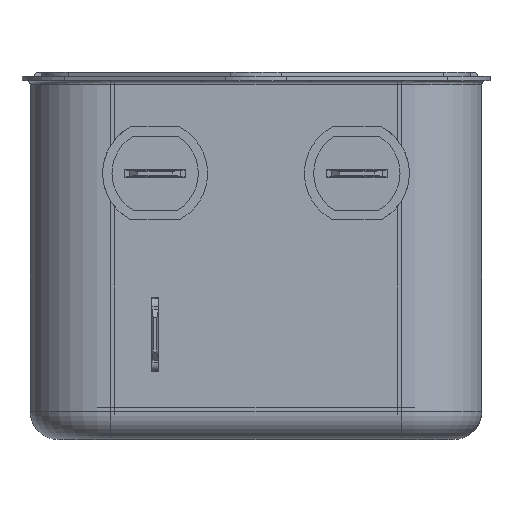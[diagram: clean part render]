
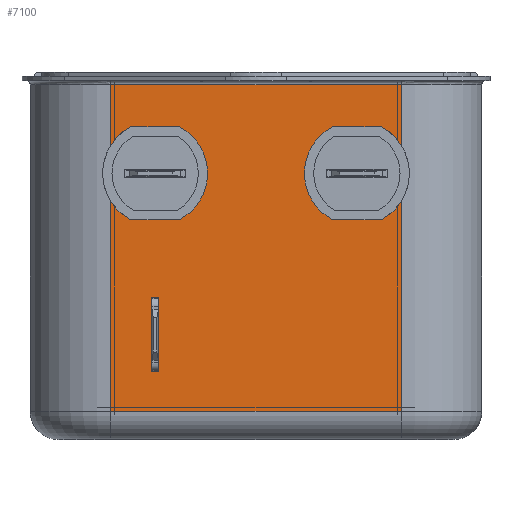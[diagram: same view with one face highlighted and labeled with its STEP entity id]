
A CAD part, left-side view. The second image highlights one B-rep face of the part: STEP entity #7100.
In plain terms, the highlighted planar face has unit normal (-1, 0, 0).
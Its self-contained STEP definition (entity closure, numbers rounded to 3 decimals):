
#6555=CARTESIAN_POINT('',(-25.07,2.141,29.536));
#6556=VERTEX_POINT('',#6555);
#6557=CARTESIAN_POINT('',(-25.07,2.141,36.464));
#6558=VERTEX_POINT('',#6557);
#6816=CARTESIAN_POINT('',(-25.07,-0.328,38.75));
#6817=VERTEX_POINT('',#6816);
#6818=CARTESIAN_POINT('',(-25.07,-6.39,38.75));
#6819=VERTEX_POINT('',#6818);
#6820=CARTESIAN_POINT('',(-25.07,-0.328,38.75));
#6821=DIRECTION('',(0.0,-1.0,0.0));
#6822=VECTOR('',#6821,6.062);
#6823=LINE('',#6820,#6822);
#6824=EDGE_CURVE('',#6817,#6819,#6823,.T.);
#6856=CARTESIAN_POINT('',(-25.07,-3.359,33.));
#6857=DIRECTION('',(1.0,0.,0.));
#6858=DIRECTION('',(0.,0.466,-0.885));
#6859=AXIS2_PLACEMENT_3D('',#6856,#6857,#6858);
#6860=CIRCLE('',#6859,6.5);
#6861=EDGE_CURVE('',#6558,#6817,#6860,.T.);
#6864=CARTESIAN_POINT('',(-25.07,-0.328,27.25));
#6865=VERTEX_POINT('',#6864);
#6866=CARTESIAN_POINT('',(-25.07,-3.359,33.));
#6867=DIRECTION('',(1.0,0.,0.));
#6868=DIRECTION('',(0.,0.466,-0.885));
#6869=AXIS2_PLACEMENT_3D('',#6866,#6867,#6868);
#6870=CIRCLE('',#6869,6.5);
#6871=EDGE_CURVE('',#6865,#6556,#6870,.T.);
#6897=CARTESIAN_POINT('',(-25.07,-6.39,27.25));
#6898=VERTEX_POINT('',#6897);
#6899=CARTESIAN_POINT('',(-25.07,-6.39,27.25));
#6900=DIRECTION('',(0.0,1.0,0.0));
#6901=VECTOR('',#6900,6.062);
#6902=LINE('',#6899,#6901);
#6903=EDGE_CURVE('',#6898,#6865,#6902,.T.);
#6928=CARTESIAN_POINT('',(-25.07,-3.359,33.));
#6929=DIRECTION('',(1.,0.,0.));
#6930=DIRECTION('',(0.,-0.466,0.885));
#6931=AXIS2_PLACEMENT_3D('',#6928,#6929,#6930);
#6932=CIRCLE('',#6931,6.5);
#6933=EDGE_CURVE('',#6819,#6898,#6932,.T.);
#6965=CARTESIAN_POINT('',(-25.07,-43.859,0.0));
#6966=DIRECTION('',(-1.0,0.0,0.0));
#6967=DIRECTION('',(0.0,0.0,1.0));
#6968=AXIS2_PLACEMENT_3D('',#6965,#6966,#6967);
#6969=PLANE('',#6968);
#6970=ORIENTED_EDGE('',*,*,#6861,.T.);
#6971=ORIENTED_EDGE('',*,*,#6824,.T.);
#6972=ORIENTED_EDGE('',*,*,#6933,.T.);
#6973=ORIENTED_EDGE('',*,*,#6903,.T.);
#6974=ORIENTED_EDGE('',*,*,#6871,.T.);
#6975=CARTESIAN_POINT('',(-25.07,2.141,3.5));
#6976=VERTEX_POINT('',#6975);
#6977=CARTESIAN_POINT('',(-25.07,2.141,3.5));
#6978=DIRECTION('',(0.0,0.0,1.0));
#6979=VECTOR('',#6978,26.036);
#6980=LINE('',#6977,#6979);
#6981=EDGE_CURVE('',#6976,#6556,#6980,.T.);
#6982=ORIENTED_EDGE('',*,*,#6981,.F.);
#6983=CARTESIAN_POINT('',(-25.07,-33.859,3.5));
#6984=VERTEX_POINT('',#6983);
#6985=CARTESIAN_POINT('',(-25.07,-33.859,3.5));
#6986=DIRECTION('',(0.0,1.0,0.0));
#6987=VECTOR('',#6986,36.);
#6988=LINE('',#6985,#6987);
#6989=EDGE_CURVE('',#6984,#6976,#6988,.T.);
#6990=ORIENTED_EDGE('',*,*,#6989,.F.);
#6991=CARTESIAN_POINT('',(-25.07,-33.859,29.536));
#6992=VERTEX_POINT('',#6991);
#6993=CARTESIAN_POINT('',(-25.07,-33.859,29.536));
#6994=DIRECTION('',(0.0,0.0,-1.0));
#6995=VECTOR('',#6994,26.036);
#6996=LINE('',#6993,#6995);
#6997=EDGE_CURVE('',#6992,#6984,#6996,.T.);
#6998=ORIENTED_EDGE('',*,*,#6997,.F.);
#6999=CARTESIAN_POINT('',(-25.07,-31.39,27.25));
#7000=VERTEX_POINT('',#6999);
#7001=CARTESIAN_POINT('',(-25.07,-28.359,33.));
#7002=DIRECTION('',(1.,0.,0.));
#7003=DIRECTION('',(0.,-0.466,0.885));
#7004=AXIS2_PLACEMENT_3D('',#7001,#7002,#7003);
#7005=CIRCLE('',#7004,6.5);
#7006=EDGE_CURVE('',#6992,#7000,#7005,.T.);
#7007=ORIENTED_EDGE('',*,*,#7006,.T.);
#7008=CARTESIAN_POINT('',(-25.07,-25.328,27.25));
#7009=VERTEX_POINT('',#7008);
#7010=CARTESIAN_POINT('',(-25.07,-31.39,27.25));
#7011=DIRECTION('',(0.0,1.0,0.0));
#7012=VECTOR('',#7011,6.062);
#7013=LINE('',#7010,#7012);
#7014=EDGE_CURVE('',#7000,#7009,#7013,.T.);
#7015=ORIENTED_EDGE('',*,*,#7014,.T.);
#7016=CARTESIAN_POINT('',(-25.07,-25.328,38.75));
#7017=VERTEX_POINT('',#7016);
#7018=CARTESIAN_POINT('',(-25.07,-28.359,33.));
#7019=DIRECTION('',(1.0,0.,0.));
#7020=DIRECTION('',(0.,0.466,-0.885));
#7021=AXIS2_PLACEMENT_3D('',#7018,#7019,#7020);
#7022=CIRCLE('',#7021,6.5);
#7023=EDGE_CURVE('',#7009,#7017,#7022,.T.);
#7024=ORIENTED_EDGE('',*,*,#7023,.T.);
#7025=CARTESIAN_POINT('',(-25.07,-31.39,38.75));
#7026=VERTEX_POINT('',#7025);
#7027=CARTESIAN_POINT('',(-25.07,-25.328,38.75));
#7028=DIRECTION('',(0.0,-1.0,0.0));
#7029=VECTOR('',#7028,6.062);
#7030=LINE('',#7027,#7029);
#7031=EDGE_CURVE('',#7017,#7026,#7030,.T.);
#7032=ORIENTED_EDGE('',*,*,#7031,.T.);
#7033=CARTESIAN_POINT('',(-25.07,-33.859,36.464));
#7034=VERTEX_POINT('',#7033);
#7035=CARTESIAN_POINT('',(-25.07,-28.359,33.));
#7036=DIRECTION('',(1.,0.,0.));
#7037=DIRECTION('',(0.,-0.466,0.885));
#7038=AXIS2_PLACEMENT_3D('',#7035,#7036,#7037);
#7039=CIRCLE('',#7038,6.5);
#7040=EDGE_CURVE('',#7026,#7034,#7039,.T.);
#7041=ORIENTED_EDGE('',*,*,#7040,.T.);
#7042=CARTESIAN_POINT('',(-25.07,-33.859,44.));
#7043=VERTEX_POINT('',#7042);
#7044=CARTESIAN_POINT('',(-25.07,-33.859,44.));
#7045=DIRECTION('',(0.0,0.0,-1.0));
#7046=VECTOR('',#7045,7.536);
#7047=LINE('',#7044,#7046);
#7048=EDGE_CURVE('',#7043,#7034,#7047,.T.);
#7049=ORIENTED_EDGE('',*,*,#7048,.F.);
#7050=CARTESIAN_POINT('',(-25.07,2.141,44.));
#7051=VERTEX_POINT('',#7050);
#7052=CARTESIAN_POINT('',(-25.07,2.141,44.));
#7053=DIRECTION('',(0.0,-1.0,0.0));
#7054=VECTOR('',#7053,36.);
#7055=LINE('',#7052,#7054);
#7056=EDGE_CURVE('',#7051,#7043,#7055,.T.);
#7057=ORIENTED_EDGE('',*,*,#7056,.F.);
#7058=CARTESIAN_POINT('',(-25.07,2.141,36.464));
#7059=DIRECTION('',(0.0,0.0,1.0));
#7060=VECTOR('',#7059,7.536);
#7061=LINE('',#7058,#7060);
#7062=EDGE_CURVE('',#6558,#7051,#7061,.T.);
#7063=ORIENTED_EDGE('',*,*,#7062,.F.);
#7064=EDGE_LOOP('',(#6970,#6971,#6972,#6973,#6974,#6982,#6990,#6998,#7007,#7015,#7024,#7032,#7041,#7049,#7057,#7063));
#7065=FACE_OUTER_BOUND('',#7064,.T.);
#7066=CARTESIAN_POINT('',(-25.07,-3.809,8.45));
#7067=VERTEX_POINT('',#7066);
#7068=CARTESIAN_POINT('',(-25.07,-2.909,8.45));
#7069=VERTEX_POINT('',#7068);
#7070=CARTESIAN_POINT('',(-25.07,-3.809,8.45));
#7071=DIRECTION('',(0.0,1.0,0.0));
#7072=VECTOR('',#7071,0.9);
#7073=LINE('',#7070,#7072);
#7074=EDGE_CURVE('',#7067,#7069,#7073,.T.);
#7075=ORIENTED_EDGE('',*,*,#7074,.T.);
#7076=CARTESIAN_POINT('',(-25.07,-2.909,17.55));
#7077=VERTEX_POINT('',#7076);
#7078=CARTESIAN_POINT('',(-25.07,-2.909,8.45));
#7079=DIRECTION('',(0.0,0.0,1.0));
#7080=VECTOR('',#7079,9.1);
#7081=LINE('',#7078,#7080);
#7082=EDGE_CURVE('',#7069,#7077,#7081,.T.);
#7083=ORIENTED_EDGE('',*,*,#7082,.T.);
#7084=CARTESIAN_POINT('',(-25.07,-3.809,17.55));
#7085=VERTEX_POINT('',#7084);
#7086=CARTESIAN_POINT('',(-25.07,-2.909,17.55));
#7087=DIRECTION('',(0.0,-1.0,0.0));
#7088=VECTOR('',#7087,0.9);
#7089=LINE('',#7086,#7088);
#7090=EDGE_CURVE('',#7077,#7085,#7089,.T.);
#7091=ORIENTED_EDGE('',*,*,#7090,.T.);
#7092=CARTESIAN_POINT('',(-25.07,-3.809,17.55));
#7093=DIRECTION('',(0.0,0.0,-1.0));
#7094=VECTOR('',#7093,9.1);
#7095=LINE('',#7092,#7094);
#7096=EDGE_CURVE('',#7085,#7067,#7095,.T.);
#7097=ORIENTED_EDGE('',*,*,#7096,.T.);
#7098=EDGE_LOOP('',(#7075,#7083,#7091,#7097));
#7099=FACE_BOUND('',#7098,.T.);
#7100=ADVANCED_FACE('',(#7065,#7099),#6969,.T.);
